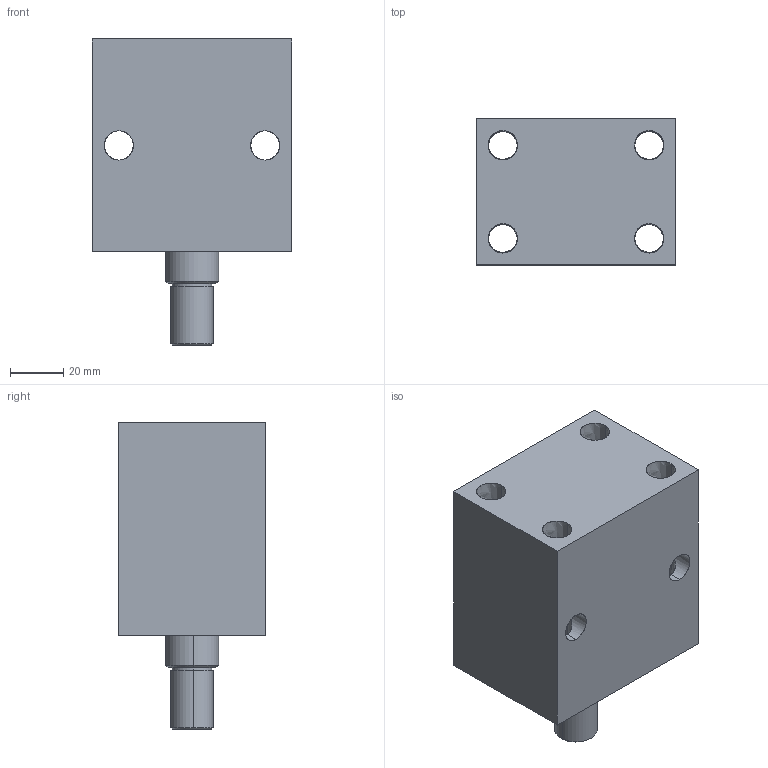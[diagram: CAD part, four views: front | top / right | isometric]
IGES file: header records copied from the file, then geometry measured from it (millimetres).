
Start section: SolidWorks IGES file using analytic representation for surfaces
Global section: file name: D:\karuppas\Clasp\3D model\Block cylinder B01C-Male thread - Copy\B01C-225M\Block cylinder_B01C-225M.IGS; native system: SolidWorks 2017; preprocessor: SolidWorks 2017; author: pc; date: 220709.233942; units: millimetre
Bounding box: 75 x 55 x 115 mm (x, y, z)
Surface area: 51788 mm2 (no closed solid volume)
Topology: 0 solids, 0 shells, 344 faces, 5266 edges, 5262 vertices
Faces by surface type: bspline 290, revolution 54
